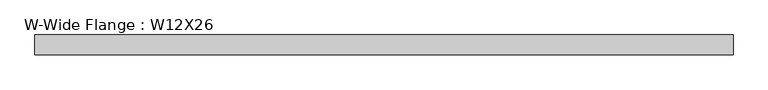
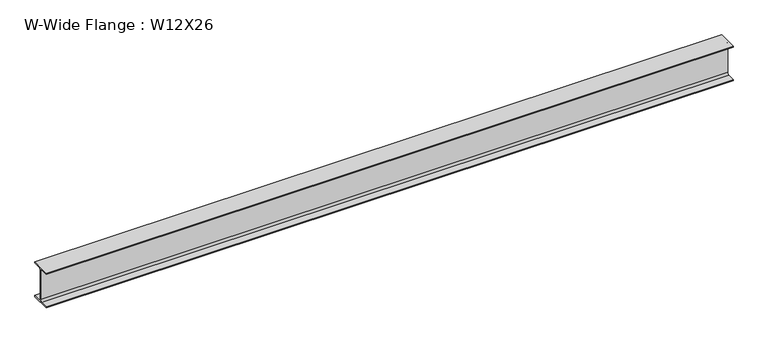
"""IFC4 building model written with IfcOpenShell, lengths in millimetres: beam geometry, W-Wide Flange : W12X26."""

from ifc_helpers import new_model, si_unit, point, frame, frame_2d, origin, place, context, project, spatial, polyline, circle_curve, trimmed, segment, composite_curve, outline, extrude, source, transform, mapped, element, save


def w_wide_flange_w12x26_07b850c1(model_context):
    return source(origin(), model_context, "Body", "SweptSolid", [
        extrude(outline(composite_curve([segment(polyline([(82.4011719, -145.5539063), (82.4011719, -155.178125), (-82.4011719, -155.178125), (-82.4011719, -145.5539063), (-20.2902344, -145.5539063)]), True, "CONTINUOUS"), segment(trimmed(circle_curve(frame_2d((-20.2902344, -128.190625)), 17.3632812), [point((-20.2902344, -145.5539063))], [point((-2.9269531, -128.190625))], True, "CARTESIAN"), True, "CONTINUOUS"), segment(polyline([(-2.9269531, -128.190625), (-2.9269531, 128.190625)]), True, "CONTINUOUS"), segment(trimmed(circle_curve(frame_2d((-20.2902344, 128.190625)), 17.3632812), [point((-2.9269531, 128.190625))], [point((-20.2902344, 145.5539062))], True, "CARTESIAN"), True, "CONTINUOUS"), segment(polyline([(-20.2902344, 145.5539062), (-82.4011719, 145.5539062), (-82.4011719, 155.178125), (82.4011719, 155.178125), (82.4011719, 145.5539062), (20.2902344, 145.5539062)]), True, "CONTINUOUS"), segment(trimmed(circle_curve(frame_2d((20.2902344, 128.190625)), 17.3632812), [point((20.2902344, 145.5539062))], [point((2.9269531, 128.190625))], True, "CARTESIAN"), True, "CONTINUOUS"), segment(polyline([(2.9269531, 128.190625), (2.9269531, -128.190625)]), True, "CONTINUOUS"), segment(trimmed(circle_curve(frame_2d((20.2902344, -128.190625)), 17.3632812), [point((2.9269531, -128.190625))], [point((20.2902344, -145.5539063))], True, "CARTESIAN"), True, "CONTINUOUS"), segment(polyline([(20.2902344, -145.5539063), (82.4011719, -145.5539063)]), True, "CONTINUOUS")], self_intersect=False)), frame((-2911.7230469, 0.0, 0.0), z_axis=(1.0, 0.0, 0.0), x_axis=(0.0, 1.0, 0.0)), (0.0, 0.0, 1.0), 5823.4460938),
    ])


if __name__ == "__main__":
    model = new_model("IFC4")
    model_context = context("Model", 3, world=origin())
    ifc_project = project(units=[si_unit("LENGTHUNIT", "METRE", prefix="MILLI")], contexts=[model_context])
    site = spatial("IfcSite", under=ifc_project)
    building = spatial("IfcBuilding", under=site)
    placement = place(None, origin())
    w_wide_flange_w12x26_shape = w_wide_flange_w12x26_07b850c1(model_context)
    element("IfcBeam", 1, ObjectType="W-Wide Flange : W12X26", at=placement, inside=building, context=model_context, shape_type="MappedRepresentation", body=[
        mapped(w_wide_flange_w12x26_shape, transform((0.0, 0.0, 0.0), x_axis=(1.0, 0.0, 0.0), y_axis=(0.0, 1.0, 0.0), z_axis=(0.0, 0.0, 1.0))),
    ])
    save(model, "model.ifc")
